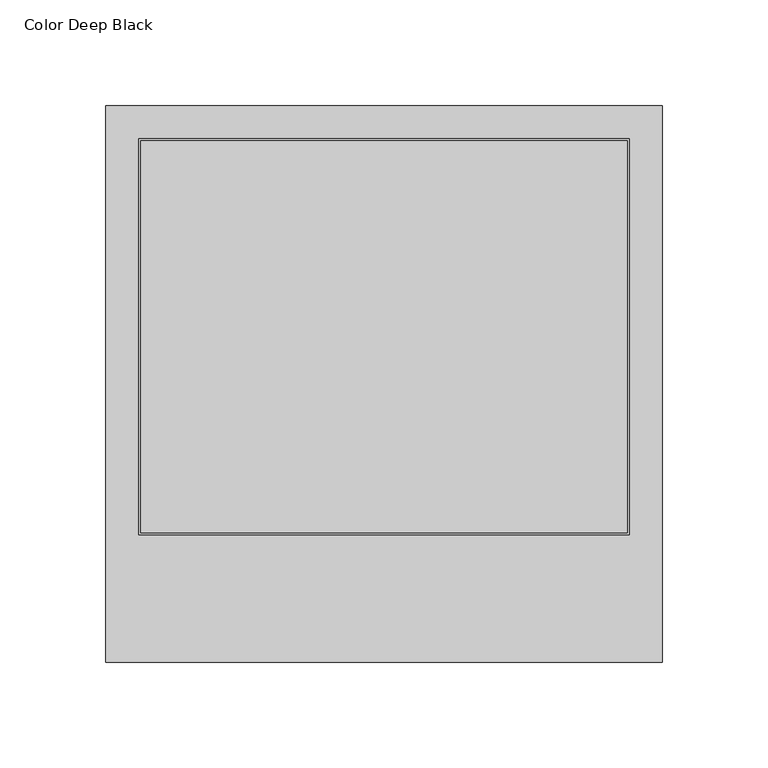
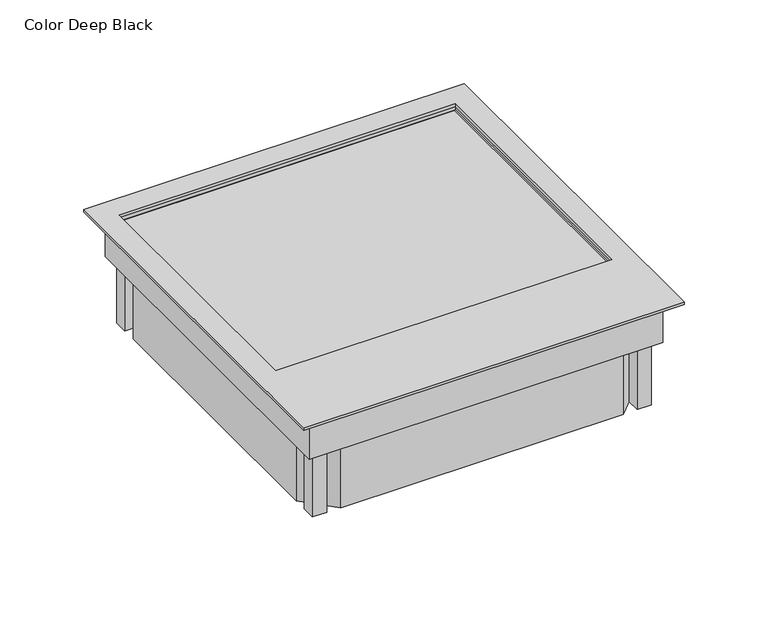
"""IFC4 building model written with IfcOpenShell, lengths in millimetres: proxy geometry, Electrical_Installation_Hager_VE-EE_Service-Unit-VQ12 : Color Deep Black."""

from ifc_helpers import new_model, si_unit, frame, origin, place, context, project, spatial, polyline, outline, extrude, faceted_brep, source, transform, mapped, element, save


def color_deep_black_fa90bbad(model_context):
    return source(origin(), model_context, "Body", "SolidModel", [
        faceted_brep([(122.0, 122.0, -30.0), (122.0, -122.0, -30.0), (-122.0, -122.0, -30.0), (-122.0, 122.0, -30.0), (117.0, -107.25, -30.0), (117.0, 107.25, -30.0), (117.0, 117.0, -30.0), (107.25, 117.0, -30.0), (-107.25, 117.0, -30.0), (-117.0, 117.0, -30.0), (-117.0, 107.25, -30.0), (-117.0, -107.25, -30.0), (-117.0, -117.0, -30.0), (-107.25, -117.0, -30.0), (107.25, -117.0, -30.0), (117.0, -117.0, -30.0), (-122.0, 122.0, 0.0), (122.0, 122.0, 0.0), (-122.0, -122.0, 0.0), (122.0, -122.0, 0.0), (117.0, 117.0, 0.0), (117.0, 117.0, -30.0), (117.0, -117.0, -30.0), (117.0, -117.0, -3.0), (117.0, -71.3, -3.0), (117.0, -71.3, 0.0), (-117.0, 117.0, -30.0), (-117.0, 117.0, 0.0), (-117.0, -71.3, 0.0), (-117.0, -71.3, -3.0), (-117.0, -117.0, -3.0), (-117.0, -117.0, -30.0), (131.5, 131.5, 2.0), (-131.5, 131.5, 2.0), (-131.5, -131.5, 2.0), (131.5, -131.5, 2.0), (116.0, 116.0, 2.0), (116.0, -71.3, 2.0), (-116.0, -71.3, 2.0), (-116.0, 116.0, 2.0), (116.0, 116.0, 0.0), (-116.0, 116.0, 0.0), (-116.0, -71.3, 0.0), (116.0, -71.3, 0.0), (131.5, 131.5, 0.0), (131.5, -131.5, 0.0), (-131.5, -131.5, 0.0), (-131.5, 131.5, 0.0), (-107.25, 107.25, -30.0), (107.25, 107.25, -30.0), (-107.25, -107.25, -30.0), (107.25, -107.25, -30.0), (-107.25, 117.0, -77.0), (-107.25, 107.25, -77.0), (-117.0, 107.25, -77.0), (-117.0, 117.0, -77.0), (117.0, 117.0, -77.0), (117.0, 107.25, -77.0), (107.25, 107.25, -77.0), (107.25, 117.0, -77.0), (-107.25, -117.0, -77.0), (-117.0, -117.0, -77.0), (-117.0, -107.25, -77.0), (-107.25, -107.25, -77.0), (117.0, -117.0, -77.0), (107.25, -117.0, -77.0), (107.25, -107.25, -77.0), (117.0, -107.25, -77.0)], [[[0, 1, 2, 3], [4, 5, 6, 7, 8, 9, 10, 11, 12, 13, 14, 15]], [[0, 3, 16, 17]], [[3, 2, 18, 16]], [[2, 1, 19, 18]], [[1, 0, 17, 19]], [[20, 21, 5, 4, 22, 23, 24, 25]], [[26, 27, 28, 29, 30, 31, 11, 10]], [[21, 20, 27, 26, 8, 7]], [[24, 23, 30, 29]], [[30, 23, 22, 14, 13, 31]], [[32, 33, 34, 35], [36, 37, 38, 39]], [[40, 41, 42, 28, 27, 20, 25, 43]], [[44, 45, 46, 47], [17, 16, 18, 19]], [[36, 39, 41, 40]], [[39, 38, 42, 41]], [[38, 37, 43, 25, 24, 29, 28, 42]], [[37, 36, 40, 43]], [[33, 32, 44, 47]], [[34, 33, 47, 46]], [[35, 34, 46, 45]], [[32, 35, 45, 44]], [[10, 48, 8, 26]], [[7, 49, 5, 21]], [[13, 50, 11, 31]], [[4, 51, 14, 22]], [[52, 53, 54, 55]], [[56, 57, 58, 59]], [[60, 61, 62, 63]], [[64, 65, 66, 67]], [[52, 55, 9, 8]], [[55, 54, 10, 9]], [[48, 10, 54, 53]], [[8, 48, 53, 52]], [[56, 59, 7, 6]], [[49, 7, 59, 58]], [[5, 49, 58, 57]], [[57, 56, 6, 5]], [[50, 13, 60, 63]], [[11, 50, 63, 62]], [[62, 61, 12, 11]], [[61, 60, 13, 12]], [[64, 67, 4, 15]], [[51, 4, 67, 66]], [[14, 51, 66, 65]], [[65, 64, 15, 14]]]),
        extrude(outline(polyline([(-115.0, 115.0), (115.0, 115.0), (115.0, -70.3), (-115.0, -70.3), (-115.0, 115.0)])), frame((0.0, 0.0, -3.0), z_axis=(0.0, 0.0, 1.0), x_axis=(1.0, 0.0, 0.0)), (0.0, 0.0, 1.0), 1.0),
        extrude(outline(polyline([(-117.0, -97.5), (-117.0, 97.5), (-97.5, 117.0), (97.5, 117.0), (117.0, 97.5), (117.0, -97.5), (97.5, -117.0), (-97.5, -117.0), (-117.0, -97.5)]), holes=[polyline([(-112.0, -95.4289322), (-95.4289322, -112.0), (95.4289322, -112.0), (112.0, -95.4289322), (112.0, 95.4289322), (95.4289322, 112.0), (-95.4289322, 112.0), (-112.0, 95.4289322), (-112.0, -95.4289322)])]), frame((0.0, 0.0, -77.0), z_axis=(0.0, 0.0, 1.0), x_axis=(1.0, 0.0, 0.0)), (0.0, 0.0, 1.0), 47.0),
        extrude(outline(polyline([(-117.0, -117.0), (-117.0, 117.0), (117.0, 117.0), (117.0, -117.0), (-117.0, -117.0)])), frame((0.0, 0.0, -8.0), z_axis=(0.0, 0.0, 1.0), x_axis=(1.0, 0.0, 0.0)), (0.0, 0.0, 1.0), 5.0),
    ])


if __name__ == "__main__":
    model = new_model("IFC4")
    model_context = context("Model", 3, world=origin())
    ifc_project = project(units=[si_unit("LENGTHUNIT", "METRE", prefix="MILLI")], contexts=[model_context])
    site = spatial("IfcSite", under=ifc_project)
    building = spatial("IfcBuilding", under=site)
    placement = place(None, origin())
    color_deep_black_shape = color_deep_black_fa90bbad(model_context)
    element("IfcBuildingElementProxy", 1, Name="Electrical_Installation_Hager_VE-EE_Service-Unit-VQ12 : Color Deep Black", ObjectType="Electrical_Installation_Hager_VE-EE_Service-Unit-VQ12 : Color Deep Black", at=placement, inside=building, context=model_context, shape_type="MappedRepresentation", body=[
        mapped(color_deep_black_shape, transform((0.0, 0.0, 0.0), x_axis=(1.0, 0.0, 0.0), y_axis=(0.0, 1.0, 0.0), z_axis=(0.0, 0.0, 1.0))),
    ])
    save(model, "model.ifc")
